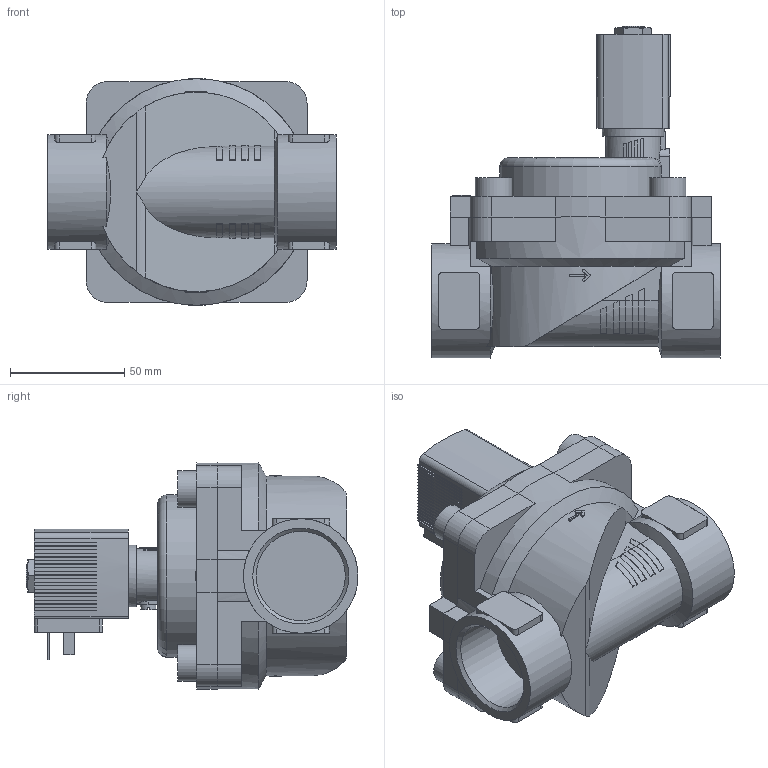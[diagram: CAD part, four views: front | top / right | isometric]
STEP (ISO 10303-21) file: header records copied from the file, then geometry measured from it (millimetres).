
FILE_DESCRIPTION(/* description */ ('STEP AP214'),/* implementation_level */ '2;1');
FILE_NAME(/* name */ '6281-384196-2_2-Way_Solenoid_Valve__Servo-assisted__General_Purpose',/* time_stamp */ '2024-06-21T17:23:12+02:00',/* author */ ('License CC BY-ND 4.0'),/* organization */ ('CADENAS'),/* preprocessor_version */ 'ST-DEVELOPER v19.3',/* originating_system */ 'PARTsolutions',/* authorisation */ ' ');
FILE_SCHEMA (('AUTOMOTIVE_DESIGN {1 0 10303 214 3 1 1}'));
Length unit declared in the file: millimetre
Products named in the file (4): 6281-384196-2/2-Way Solenoid Valve, Servo-assisted, General Purpose; 5281ev402MS2/2-Wege-Magnetventil mit Servomembran-Deckel 99HA15 ; 6213-40G1_1/4MS-Gehaeuse-; AC10ex-5OO-Plan-Coil
Assembly tree (3 placements, depth 2):
  6281-384196-2/2-Way Solenoid Valve, Servo-assisted, General Purpose
    5281ev402MS2/2-Wege-Magnetventil mit Servomembran-Deckel 99HA15 
    6213-40G1_1/4MS-Gehaeuse-
    AC10ex-5OO-Plan-Coil
Bounding box: 126 x 145 x 99 mm (x, y, z)
Volume: 592546 mm3; surface area: 86916.5 mm2
Topology: 3 solids, 3 shells, 552 faces, 1548 edges, 1027 vertices
Faces by surface type: plane 443, cylinder 93, cone 15, torus 1
Full cylindrical faces by diameter (mm): 2.013 x1, 7 x1, 9.74 x1, 16 x4, 27 x1, 38.952 x2, 50 x2
Entity records: 20378 total; most frequent: CARTESIAN_POINT 3366, ORIENTED_EDGE 3046, DIRECTION 2886, EDGE_CURVE 1523, LINE 1132, VECTOR 1132, VERTEX_POINT 1018, AXIS2_PLACEMENT_3D 877
